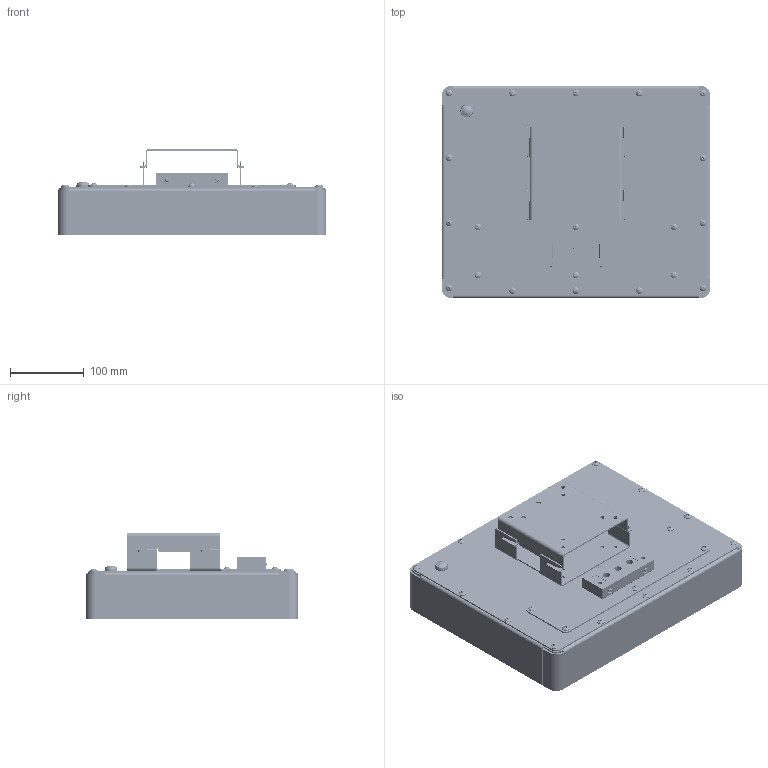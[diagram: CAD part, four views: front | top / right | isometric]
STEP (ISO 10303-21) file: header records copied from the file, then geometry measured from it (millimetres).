
FILE_DESCRIPTION (( 'STEP AP203' ), '1' );
FILE_NAME ('K150S-PC with wallmount.STEP', '2026-07-16T10:07:16', ( '' ), ( '' ), 'SwSTEP 2.0', 'SolidWorks 2025', '' );
FILE_SCHEMA (( 'CONFIG_CONTROL_DESIGN' ));
Length unit declared in the file: millimetre
Products named in the file (51): 48258_200; 2.5'''' HDD; 48258_200_06; K150S-13 backcover; S-M5-2-ZI Inpersmoer; CPCB membrame key pad; K150S-10 Front; V-UNI-12 Bevestigingsplaat; S-M3-1-ZI Inpersmoer; DC002; ITW 59111_button; IPPC00-26 Backpanel C08-1525NPH; 48258_200_07; RS232_panelmount_RS 446-462; K150S-12 Panelframe; CMI G150XNE-L03; ITW 59111; 48258_200_01; IPTFT00-10 Connector cover; IPPC00-13 Montageplaat klein; SSD2.5-10 bracket; Tubtara M4 HUKX30; 48258_200_02; Sealing^K150S-00 Assembly; 48258_200_04; K-UNI-01 Componenten assembly_MONITOR; 48258_200_08; WM04-00 Vlakke wandsteun Assembly; WM04-11 Plaatdeel muur; SO-3,5M3-10-ZI Inpersafstandsteun; DIN 967 - M4 x 12 - Z --- 10.6N_DIN 967 - M4 x 12 - Z --- 10.6N; 48258_200_09; ITW 59111_locknut; Meanwell IRM-60-12ST; WM04-10 Plaatdeel kast; K150S-11 Glassmount; C08-1525NPH; 48258_200_05; EG-15-319-0403V1; K150S-15 Displaystrip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
Assembly tree (100 placements, depth 4):
  K150S-PC with wallmount
    K150S-10 Front
      K150S-10 Front
      Tubtara M4 HUKX30  x14
    K150S-11 Glassmount
    K150S-12 Panelframe
    K150S-13 backcover
      K150S-13 backcover
      Tubtara M4 HUKX20  x6
      TEST BS-M4-8 RVS blinde inpersafstandsteun  x4
    K-UNI-01 Componenten assembly_MONITOR
      Meanwell IRM-60-12ST
      IPPC00-13 Montageplaat klein
        IPPC00-13 Montageplaat klein
        S-M3-1-ZI Inpersmoer  x4
      220V IEC snap-in input socket 539-2017
      IPPC00-26 Backpanel C08-1525NPH
      V-UNI-12 Bevestigingsplaat
        V-UNI-12 Bevestigingsplaat
        SO-3,5M3-10-ZI Inpersafstandsteun  x6
      C08-1525NPH
      CPCB membrame key pad
      IPTFT00-10 Connector cover
        IPTFT00-10 Connector cover
        S-M5-2-ZI Inpersmoer  x2
      48258_200
        48258_200_01
        48258_200_02
        48258_200_03
        48258_200_04
        48258_200_05
        48258_200_06
        48258_200_07
        48258_200_08
        48258_200_09
      RS232_panelmount_RS 446-462
      DC002
      2.5'''' HDD
      SSD2.5-10 bracket
    K150S-15 Displaystrip  x2
    CMI G150XNE-L03
    EG-15-319-0403V1
    Sealing^K150S-00 Assembly
    ITW 59111
      ITW 59111_button
      ITW 59111_ring
      ITW 59111_locknut
    DIN 967 - M4 x 12 - Z --- 10.6N_DIN 967 - M4 x 12 - Z --- 10.6N  x20
    WM04-00 Vlakke wandsteun Assembly
      WM04-10 Plaatdeel kast
      WM04-11 Plaatdeel muur
Bounding box: 363 x 287 x 116 mm (x, y, z)
Volume: 2066491.6 mm3; surface area: 1337202.4 mm2
Topology: 93 solids, 651 shells, 7131 faces, 21314 edges, 14870 vertices
Faces by surface type: plane 4936, cylinder 1347, bspline 438, cone 310, torus 64, sphere 36
Full cylindrical faces by diameter (mm): 0.1 x1, 0.2 x1, 0.8 x16, 0.92 x9, 1 x3, 1.2 x1, 1.27 x15, 1.397 x2, 1.8 x3, 2 x1, 2.5 x14, 3 x4, 3.2 x2, 3.4 x48, 3.5 x22, 4 x34, 4.008 x12, 4.04 x16, 4.2 x8, 4.3 x4, 4.41 x2, 4.5 x6, 5 x30, 5.4 x6, 5.49 x6, 5.5 x18, 5.8 x2, 6 x30, 6.2 x8, 6.3 x5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
Entity records: 241385 total; most frequent: CARTESIAN_POINT 80401, ORIENTED_EDGE 30137, DIRECTION 28476, EDGE_CURVE 18042, VERTEX_POINT 13003, LINE 12678, VECTOR 12678, AXIS2_PLACEMENT_3D 7899
